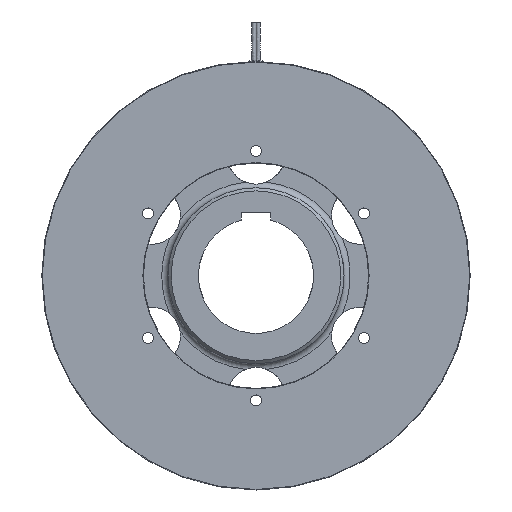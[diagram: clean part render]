
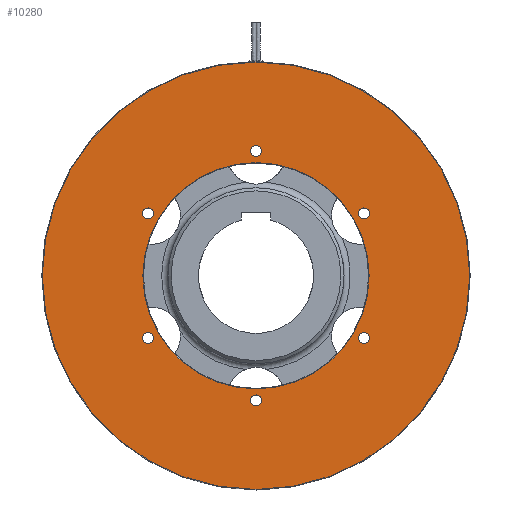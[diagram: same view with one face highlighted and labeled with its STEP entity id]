
A CAD part, left-side view. The second image highlights one B-rep face of the part: STEP entity #10280.
In plain terms, the highlighted planar face has unit normal (-1, 0, 0).
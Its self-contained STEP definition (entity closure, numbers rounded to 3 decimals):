
#868=FACE_BOUND('',#2181,.T.);
#869=FACE_BOUND('',#2182,.T.);
#870=FACE_BOUND('',#2183,.T.);
#871=FACE_BOUND('',#2184,.T.);
#872=FACE_BOUND('',#2185,.T.);
#873=FACE_BOUND('',#2186,.T.);
#874=FACE_BOUND('',#2187,.T.);
#1053=PLANE('',#11839);
#1546=FACE_OUTER_BOUND('',#2180,.T.);
#2180=EDGE_LOOP('',(#9567,#9568,#9569));
#2181=EDGE_LOOP('',(#9570,#9571));
#2182=EDGE_LOOP('',(#9572,#9573));
#2183=EDGE_LOOP('',(#9574,#9575));
#2184=EDGE_LOOP('',(#9576,#9577));
#2185=EDGE_LOOP('',(#9578,#9579));
#2186=EDGE_LOOP('',(#9580,#9581));
#2187=EDGE_LOOP('',(#9582));
#3644=CIRCLE('',#11233,204.);
#3645=CIRCLE('',#11234,204.);
#4073=CIRCLE('',#11840,204.);
#4074=CIRCLE('',#11841,5.25);
#4075=CIRCLE('',#11842,5.25);
#4076=CIRCLE('',#11843,5.25);
#4077=CIRCLE('',#11844,5.25);
#4078=CIRCLE('',#11845,5.25);
#4079=CIRCLE('',#11846,5.25);
#4080=CIRCLE('',#11847,5.25);
#4081=CIRCLE('',#11848,5.25);
#4082=CIRCLE('',#11849,5.25);
#4083=CIRCLE('',#11850,5.25);
#4084=CIRCLE('',#11851,5.25);
#4085=CIRCLE('',#11852,5.25);
#4086=CIRCLE('',#11853,108.);
#4739=VERTEX_POINT('',#17602);
#4740=VERTEX_POINT('',#17604);
#4741=VERTEX_POINT('',#17606);
#5103=VERTEX_POINT('',#18865);
#5104=VERTEX_POINT('',#18866);
#5105=VERTEX_POINT('',#18869);
#5106=VERTEX_POINT('',#18870);
#5107=VERTEX_POINT('',#18873);
#5108=VERTEX_POINT('',#18874);
#5109=VERTEX_POINT('',#18877);
#5110=VERTEX_POINT('',#18878);
#5111=VERTEX_POINT('',#18881);
#5112=VERTEX_POINT('',#18882);
#5113=VERTEX_POINT('',#18885);
#5114=VERTEX_POINT('',#18886);
#5115=VERTEX_POINT('',#18889);
#6051=EDGE_CURVE('',#4740,#4739,#3644,.T.);
#6052=EDGE_CURVE('',#4741,#4740,#3645,.T.);
#6626=EDGE_CURVE('',#4739,#4741,#4073,.T.);
#6627=EDGE_CURVE('',#5103,#5104,#4074,.T.);
#6628=EDGE_CURVE('',#5104,#5103,#4075,.T.);
#6629=EDGE_CURVE('',#5105,#5106,#4076,.T.);
#6630=EDGE_CURVE('',#5106,#5105,#4077,.T.);
#6631=EDGE_CURVE('',#5107,#5108,#4078,.T.);
#6632=EDGE_CURVE('',#5108,#5107,#4079,.T.);
#6633=EDGE_CURVE('',#5109,#5110,#4080,.T.);
#6634=EDGE_CURVE('',#5110,#5109,#4081,.T.);
#6635=EDGE_CURVE('',#5111,#5112,#4082,.T.);
#6636=EDGE_CURVE('',#5112,#5111,#4083,.T.);
#6637=EDGE_CURVE('',#5113,#5114,#4084,.T.);
#6638=EDGE_CURVE('',#5114,#5113,#4085,.T.);
#6639=EDGE_CURVE('',#5115,#5115,#4086,.T.);
#9567=ORIENTED_EDGE('',*,*,#6051,.T.);
#9568=ORIENTED_EDGE('',*,*,#6626,.T.);
#9569=ORIENTED_EDGE('',*,*,#6052,.T.);
#9570=ORIENTED_EDGE('',*,*,#6627,.T.);
#9571=ORIENTED_EDGE('',*,*,#6628,.T.);
#9572=ORIENTED_EDGE('',*,*,#6629,.T.);
#9573=ORIENTED_EDGE('',*,*,#6630,.T.);
#9574=ORIENTED_EDGE('',*,*,#6631,.T.);
#9575=ORIENTED_EDGE('',*,*,#6632,.T.);
#9576=ORIENTED_EDGE('',*,*,#6633,.T.);
#9577=ORIENTED_EDGE('',*,*,#6634,.T.);
#9578=ORIENTED_EDGE('',*,*,#6635,.T.);
#9579=ORIENTED_EDGE('',*,*,#6636,.T.);
#9580=ORIENTED_EDGE('',*,*,#6637,.T.);
#9581=ORIENTED_EDGE('',*,*,#6638,.T.);
#9582=ORIENTED_EDGE('',*,*,#6639,.F.);
#10280=ADVANCED_FACE('',(#1546,#868,#869,#870,#871,#872,#873,#874),#1053,
 .T.);
#11233=AXIS2_PLACEMENT_3D('',#17605,#13973,#13974);
#11234=AXIS2_PLACEMENT_3D('',#17607,#13975,#13976);
#11839=AXIS2_PLACEMENT_3D('',#18863,#15325,#15326);
#11840=AXIS2_PLACEMENT_3D('',#18864,#15327,#15328);
#11841=AXIS2_PLACEMENT_3D('',#18867,#15329,#15330);
#11842=AXIS2_PLACEMENT_3D('',#18868,#15331,#15332);
#11843=AXIS2_PLACEMENT_3D('',#18871,#15333,#15334);
#11844=AXIS2_PLACEMENT_3D('',#18872,#15335,#15336);
#11845=AXIS2_PLACEMENT_3D('',#18875,#15337,#15338);
#11846=AXIS2_PLACEMENT_3D('',#18876,#15339,#15340);
#11847=AXIS2_PLACEMENT_3D('',#18879,#15341,#15342);
#11848=AXIS2_PLACEMENT_3D('',#18880,#15343,#15344);
#11849=AXIS2_PLACEMENT_3D('',#18883,#15345,#15346);
#11850=AXIS2_PLACEMENT_3D('',#18884,#15347,#15348);
#11851=AXIS2_PLACEMENT_3D('',#18887,#15349,#15350);
#11852=AXIS2_PLACEMENT_3D('',#18888,#15351,#15352);
#11853=AXIS2_PLACEMENT_3D('',#18890,#15353,#15354);
#13973=DIRECTION('center_axis',(-1.,0.,0.));
#13974=DIRECTION('ref_axis',(0.,1.,0.));
#13975=DIRECTION('center_axis',(-1.,0.,0.));
#13976=DIRECTION('ref_axis',(0.,1.,0.));
#15325=DIRECTION('center_axis',(-1.,0.,0.));
#15326=DIRECTION('ref_axis',(0.,0.,
1.));
#15327=DIRECTION('center_axis',(-1.,0.,0.));
#15328=DIRECTION('ref_axis',(0.,1.,0.));
#15329=DIRECTION('center_axis',(1.,0.,0.));
#15330=DIRECTION('ref_axis',(0.,1.,0.));
#15331=DIRECTION('center_axis',(1.,0.,0.));
#15332=DIRECTION('ref_axis',(0.,1.,0.));
#15333=DIRECTION('center_axis',(1.,0.,0.));
#15334=DIRECTION('ref_axis',(0.,1.,0.));
#15335=DIRECTION('center_axis',(1.,0.,0.));
#15336=DIRECTION('ref_axis',(0.,1.,0.));
#15337=DIRECTION('center_axis',(1.,0.,0.));
#15338=DIRECTION('ref_axis',(0.,1.,0.));
#15339=DIRECTION('center_axis',(1.,0.,0.));
#15340=DIRECTION('ref_axis',(0.,1.,0.));
#15341=DIRECTION('center_axis',(1.,0.,0.));
#15342=DIRECTION('ref_axis',(0.,1.,0.));
#15343=DIRECTION('center_axis',(1.,0.,0.));
#15344=DIRECTION('ref_axis',(0.,1.,0.));
#15345=DIRECTION('center_axis',(1.,0.,0.));
#15346=DIRECTION('ref_axis',(0.,1.,0.));
#15347=DIRECTION('center_axis',(1.,0.,0.));
#15348=DIRECTION('ref_axis',(0.,1.,0.));
#15349=DIRECTION('center_axis',(1.,0.,0.));
#15350=DIRECTION('ref_axis',(0.,1.,0.));
#15351=DIRECTION('center_axis',(1.,0.,0.));
#15352=DIRECTION('ref_axis',(0.,1.,0.));
#15353=DIRECTION('center_axis',(-1.,0.,0.));
#15354=DIRECTION('ref_axis',(0.,-1.,0.));
#17602=CARTESIAN_POINT('',(-25.65,-204.,0.));
#17604=CARTESIAN_POINT('',(-25.65,204.,0.));
#17605=CARTESIAN_POINT('Origin',(-25.65,0.,
0.));
#17606=CARTESIAN_POINT('',(-25.65,0.,204.));
#17607=CARTESIAN_POINT('Origin',(-25.65,0.,
0.));
#18863=CARTESIAN_POINT('Origin',(-25.65,155.75,0.));
#18864=CARTESIAN_POINT('Origin',(-25.65,0.,
0.));
#18865=CARTESIAN_POINT('',(-25.65,-97.807,-59.5));
#18866=CARTESIAN_POINT('',(-25.65,-108.307,-59.5));
#18867=CARTESIAN_POINT('Origin',(-25.65,-103.057,-59.5));
#18868=CARTESIAN_POINT('Origin',(-25.65,-103.057,-59.5));
#18869=CARTESIAN_POINT('',(-25.65,108.307,-59.5));
#18870=CARTESIAN_POINT('',(-25.65,97.807,-59.5));
#18871=CARTESIAN_POINT('Origin',(-25.65,103.057,-59.5));
#18872=CARTESIAN_POINT('Origin',(-25.65,103.057,-59.5));
#18873=CARTESIAN_POINT('',(-25.65,5.25,119.));
#18874=CARTESIAN_POINT('',(-25.65,-5.25,119.));
#18875=CARTESIAN_POINT('Origin',(-25.65,0.,119.));
#18876=CARTESIAN_POINT('Origin',(-25.65,0.,119.));
#18877=CARTESIAN_POINT('',(-25.65,108.307,59.5));
#18878=CARTESIAN_POINT('',(-25.65,97.807,59.5));
#18879=CARTESIAN_POINT('Origin',(-25.65,103.057,59.5));
#18880=CARTESIAN_POINT('Origin',(-25.65,103.057,59.5));
#18881=CARTESIAN_POINT('',(-25.65,5.25,-119.));
#18882=CARTESIAN_POINT('',(-25.65,-5.25,-119.));
#18883=CARTESIAN_POINT('Origin',(-25.65,0.,-119.));
#18884=CARTESIAN_POINT('Origin',(-25.65,0.,-119.));
#18885=CARTESIAN_POINT('',(-25.65,-97.807,59.5));
#18886=CARTESIAN_POINT('',(-25.65,-108.307,59.5));
#18887=CARTESIAN_POINT('Origin',(-25.65,-103.057,59.5));
#18888=CARTESIAN_POINT('Origin',(-25.65,-103.057,59.5));
#18889=CARTESIAN_POINT('',(-25.65,108.,0.));
#18890=CARTESIAN_POINT('Origin',(-25.65,0.,0.));
